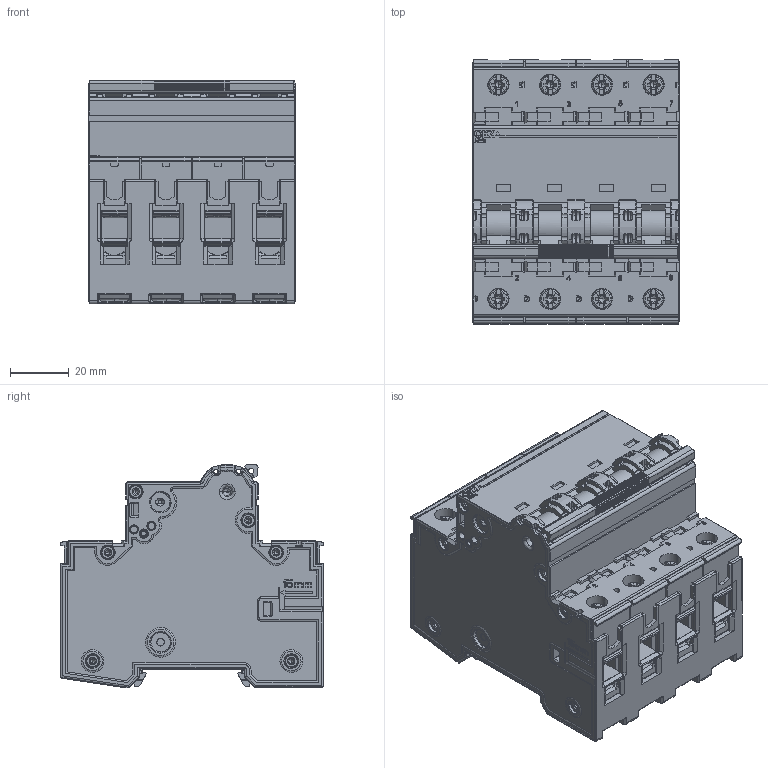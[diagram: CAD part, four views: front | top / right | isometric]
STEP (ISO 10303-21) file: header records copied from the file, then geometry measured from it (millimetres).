
FILE_DESCRIPTION (( 'STEP AP214' ), '1' );
FILE_NAME ('MSN-4.step', '2016-02-26T12:20:12', ( '' ), ( '' ), 'SwSTEP 2.0', 'SolidWorks 2011', '' );
FILE_SCHEMA (( 'AUTOMOTIVE_DESIGN' ));
Length unit declared in the file: millimetre
Products named in the file (1): MSN-4
Bounding box: 70.4 x 89.8 x 76.11 mm (x, y, z)
Volume: 342055.2 mm3; surface area: 59842.6 mm2
Topology: 9 solids, 9 shells, 4943 faces, 14147 edges, 9275 vertices
Faces by surface type: plane 2940, cylinder 1043, bspline 599, cone 283, torus 78
Entity records: 245712 total; most frequent: CARTESIAN_POINT 73502, ORIENTED_EDGE 28198, DIRECTION 18870, EDGE_CURVE 14099, VERTEX_POINT 9275, LINE 8240, VECTOR 8240, AXIS2_PLACEMENT_3D 5315
